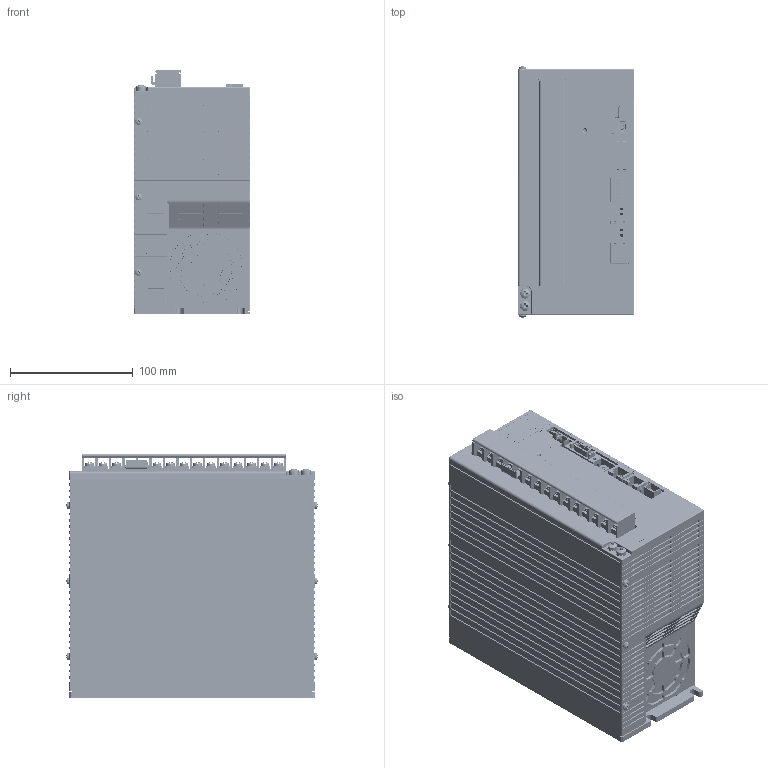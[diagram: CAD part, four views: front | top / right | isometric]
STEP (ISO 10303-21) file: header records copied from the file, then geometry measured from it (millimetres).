
FILE_DESCRIPTION (( 'STEP AP203' ), '1' );
FILE_NAME ('NCR-VD_Series(152-222)#SX-008600-00-01_STO.STEP', '2026-05-28T00:16:40', ( '' ), ( '' ), 'SwSTEP 2.0', 'SolidWorks 2024', '' );
FILE_SCHEMA (( 'CONFIG_CONTROL_DESIGN' ));
Products named in the file (1): NCR-VD_Series(152-222)#SX-008600-00-01_STO
Bounding box: 95 x 204.71 x 199.2 mm (x, y, z)
Volume: 3376377.5 mm3; surface area: 211212 mm2
Topology: 2 solids, 32 shells, 10319 faces, 29965 edges, 19710 vertices
Faces by surface type: plane 7422, cylinder 1822, bspline 715, cone 275, torus 62, sphere 23
Entity records: 369755 total; most frequent: CARTESIAN_POINT 107627, ORIENTED_EDGE 59892, DIRECTION 47560, EDGE_CURVE 29946, VECTOR 22636, LINE 22636, VERTEX_POINT 19710, AXIS2_PLACEMENT_3D 12462
